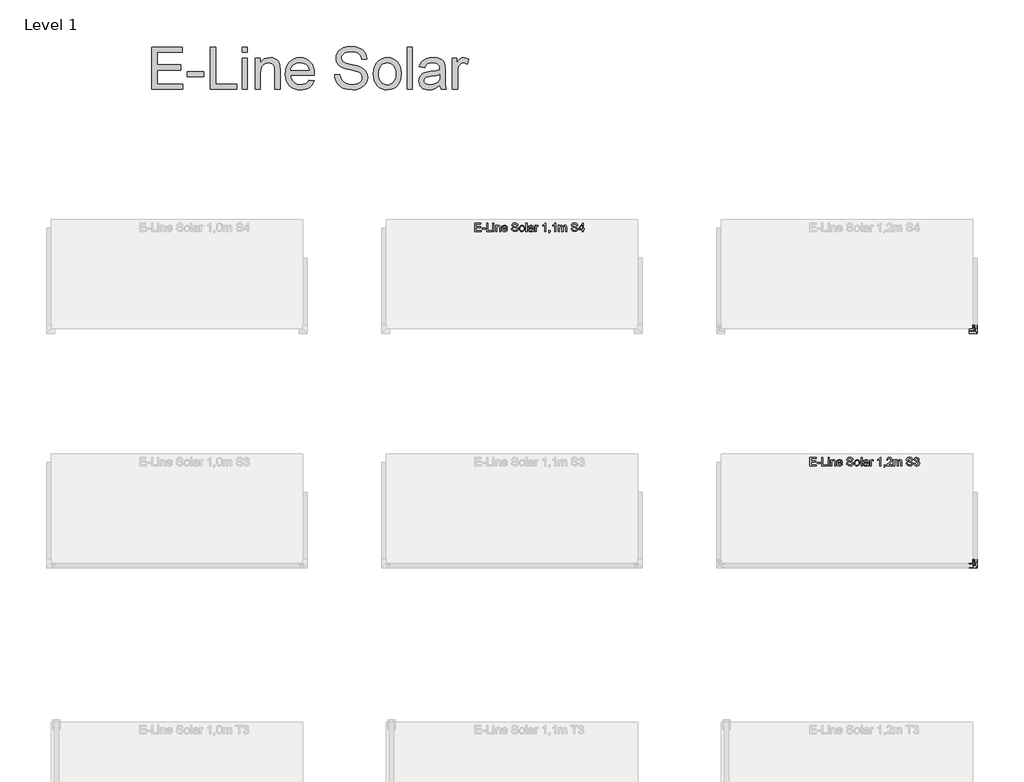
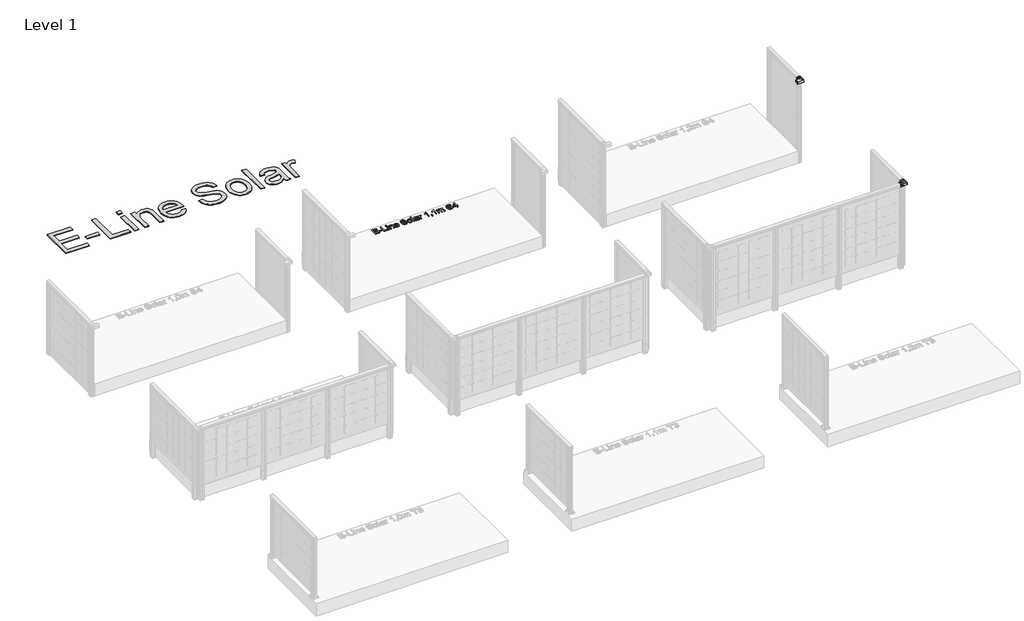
# One storey, part 64 of 66: 5 proxies.
"""IFC4 building model written with IfcOpenShell, lengths in millimetres."""

from ifc_helpers import new_model, si_unit, origin, origin_with_axes, place, context, project, spatial, polyline, outline, extrude, transform, mapped, element, save
from components import generic_models_b718ed85

model = new_model("IFC4")

# Units and contexts
model_context = context("Model", 3, world=origin())
ifc_project = project(units=[si_unit("LENGTHUNIT", "METRE", prefix="MILLI")], contexts=[model_context])

# Site, building, storey
site = spatial("IfcSite", under=ifc_project)
building = spatial("IfcBuilding", under=site)
storey = spatial("IfcBuildingStorey", under=building, Name="Level 1", Elevation=0.0)

# Proxies
placement = place(None, origin())
generic_models_shape = generic_models_b718ed85(model_context)
element("IfcBuildingElementProxy", 1, Name="Innore top rail 51x43 corner element : Innore top rail 51x43 element", ObjectType="Innore top rail 51x43 corner element : Innore top rail 51x43 element", at=placement, inside=storey, context=model_context, shape_type="MappedRepresentation", body=[
    mapped(generic_models_shape, transform((26326.5270144, 2988.9093698, 1200.0), x_axis=(0.0, -1.0, 0.0), y_axis=(1.0, 0.0, 0.0), z_axis=(0.0, 0.0, 1.0))),
])
element("IfcBuildingElementProxy", 2, Name="Innore top rail 51x43 corner element : Innore top rail 51x43 element", ObjectType="Innore top rail 51x43 corner element : Innore top rail 51x43 element", at=placement, inside=storey, context=model_context, shape_type="MappedRepresentation", body=[
    mapped(generic_models_shape, transform((26326.5270144, 188.9093698, 1200.0), x_axis=(0.0, -1.0, 0.0), y_axis=(1.0, 0.0, 0.0), z_axis=(0.0, 0.0, 1.0))),
])
element("IfcBuildingElementProxy", 3, Name="100mm Arial", ObjectType="100mm Arial", at=placement, inside=storey, context=model_context, shape_type="SweptSolid", body=[
    extrude(outline(polyline([(20354.036482, 4178.8815979), (20354.036482, 4279.3379081), (20426.2394549, 4279.3379081), (20426.2394549, 4266.7808693), (20366.5935207, 4266.7808693), (20366.5935207, 4236.9579022), (20423.1001952, 4236.9579022), (20423.1001952, 4224.4008635), (20366.5935207, 4224.4008635), (20366.5935207, 4191.4386367), (20427.8090847, 4191.4386367), (20427.8090847, 4178.8815979), (20354.036482, 4178.8815979)])), origin_with_axes(), (0.0, 0.0, 1.0), 10.0),
    extrude(outline(polyline([(20438.7964936, 4208.704565), (20438.7964936, 4221.2616038), (20478.0372398, 4221.2616038), (20478.0372398, 4208.704565), (20438.7964936, 4208.704565)])), origin_with_axes(), (0.0, 0.0, 1.0), 10.0),
    extrude(outline(polyline([(20493.7335383, 4178.8815979), (20493.7335383, 4279.3379081), (20506.290577, 4279.3379081), (20506.290577, 4191.4386367), (20556.5187321, 4191.4386367), (20556.5187321, 4178.8815979), (20493.7335383, 4178.8815979)])), origin_with_axes(), (0.0, 0.0, 1.0), 10.0),
    extrude(outline(polyline([(20569.0757709, 4266.7808693), (20569.0757709, 4279.3379081), (20581.6328096, 4279.3379081), (20581.6328096, 4266.7808693), (20569.0757709, 4266.7808693)])), origin_with_axes(), (0.0, 0.0, 1.0), 10.0),
    extrude(outline(polyline([(20569.0757709, 4178.8815979), (20569.0757709, 4252.6542007), (20581.6328096, 4252.6542007), (20581.6328096, 4178.8815979), (20569.0757709, 4178.8815979)])), origin_with_axes(), (0.0, 0.0, 1.0), 10.0),
    extrude(outline(polyline([(20600.4683678, 4178.8815979), (20600.4683678, 4252.6542007), (20613.0254066, 4252.6542007), (20613.0254066, 4242.3535048), (20622.6271266, 4251.2562491), (20635.7359884, 4254.2238305), (20647.5940514, 4251.8325976), (20655.6874553, 4245.5540782), (20659.4521144, 4236.3202401), (20660.1143019, 4224.1801343), (20660.1143019, 4178.8815979), (20647.5572632, 4178.8815979), (20647.5572632, 4222.4878771), (20646.1102607, 4233.5979133), (20640.9967009, 4239.4717625), (20632.3759995, 4241.6667918), (20618.752103, 4236.737173), (20614.4570807, 4229.594131), (20613.0254066, 4218.0242422), (20613.0254066, 4178.8815979), (20600.4683678, 4178.8815979)])), origin_with_axes(), (0.0, 0.0, 1.0), 10.0),
    extrude(outline(polyline([(20729.0308624, 4200.8564158), (20741.3426465, 4199.2867859), (20736.9066028, 4190.0100283), (20729.82794, 4183.0754527), (20720.2660738, 4178.7528392), (20708.3804197, 4177.3119681), (20693.6467458, 4179.7982372), (20682.309849, 4187.2570447), (20675.0809678, 4199.2040125), (20672.6713407, 4215.1547626), (20675.1054932, 4231.6420074), (20682.4079508, 4243.9721856), (20693.5915635, 4251.6609193), (20707.6691812, 4254.2238305), (20721.3084062, 4251.6670507), (20732.2069103, 4243.9967111), (20739.353018, 4231.6910583), (20741.7350539, 4215.228339), (20741.6614775, 4211.8438247), (20685.2283795, 4211.8438247), (20687.4019489, 4202.4444397), (20692.4511293, 4195.5343896), (20699.7382585, 4191.2853525), (20708.6256744, 4189.8690068), (20720.9374585, 4192.4932317), (20729.0308624, 4200.8564158)]), holes=[polyline([(20685.2283795, 4224.4008635), (20729.1780152, 4224.4008635), (20724.1502946, 4235.7806798), (20716.8294429, 4240.1952638), (20707.6201303, 4241.6667918), (20692.1568237, 4236.970165), (20687.2915843, 4231.4795262), (20685.2283795, 4224.4008635)])]), origin_with_axes(), (0.0, 0.0, 1.0), 10.0),
    extrude(outline(polyline([(20790.3935792, 4213.4134545), (20802.9506179, 4213.4134545), (20806.9973199, 4200.844153), (20816.8810828, 4192.8979019), (20831.9397192, 4189.8690068), (20845.0608437, 4192.1621379), (20853.5343923, 4198.4651828), (20856.3180327, 4206.8896805), (20854.2333681, 4214.725567), (20845.6985058, 4220.4277379), (20827.4147706, 4225.2224666), (20807.7330839, 4231.4151468), (20797.0522433, 4240.7593495), (20793.5328389, 4253.2428119), (20797.8861091, 4267.4553196), (20810.6025634, 4277.4862354), (20829.2173924, 4280.9075379), (20849.0830201, 4277.3268198), (20862.326772, 4266.8053948), (20867.3054416, 4251.0845708), (20854.7484029, 4251.0845708), (20852.443009, 4258.5771008), (20847.6360176, 4263.9849661), (20829.7079017, 4268.3504991), (20811.7307349, 4264.0340171), (20806.0898776, 4253.6106939), (20810.0875286, 4244.9041533), (20830.5908185, 4237.8898699), (20852.810891, 4231.5868251), (20864.9632596, 4221.4087566), (20868.8750715, 4207.2085115), (20864.3746484, 4192.1866634), (20851.4252022, 4181.22378), (20832.4302285, 4177.3119681), (20810.0016895, 4181.5303483), (20795.8137072, 4194.2345399), (20790.3935792, 4213.4134545)])), origin_with_axes(), (0.0, 0.0, 1.0), 10.0),
    extrude(outline(polyline([(20883.0017401, 4215.7678993), (20885.7179355, 4233.5549938), (20893.8665217, 4246.0568502), (20903.9342256, 4252.1820855), (20915.9884923, 4254.2238305), (20929.1801275, 4251.7375614), (20939.716881, 4244.2787539), (20946.6238655, 4232.4360194), (20948.9261936, 4216.7979689), (20944.8549662, 4194.455269), (20932.9969032, 4181.8123911), (20915.9884923, 4177.3119681), (20902.6374416, 4179.7890402), (20892.1129508, 4187.2202565), (20885.2795428, 4199.3113114), (20883.0017401, 4215.7678993)]), holes=[polyline([(20895.5587789, 4215.7924248), (20897.0119127, 4204.4279368), (20901.3713144, 4196.3314672), (20907.9318766, 4191.4846219), (20915.9884923, 4189.8690068), (20924.0083198, 4191.493819), (20930.5566193, 4196.3682554), (20934.916021, 4204.5720239), (20936.3691549, 4216.1848322), (20934.9068239, 4227.2182264), (20930.5198311, 4235.2043314), (20923.9623346, 4240.0511767), (20915.9884923, 4241.6667918), (20907.9318766, 4240.057308), (20901.3713144, 4235.2288568), (20897.0119127, 4227.1507814), (20895.5587789, 4215.7924248)])]), origin_with_axes(), (0.0, 0.0, 1.0), 10.0),
    extrude(outline(polyline([(20963.0528622, 4178.8815979), (20963.0528622, 4279.3379081), (20975.609901, 4279.3379081), (20975.609901, 4178.8815979), (20963.0528622, 4178.8815979)])), origin_with_axes(), (0.0, 0.0, 1.0), 10.0),
    extrude(outline(polyline([(21041.5343545, 4188.299377), (21029.3574605, 4179.7890402), (21015.9052422, 4177.3119681), (21005.4114083, 4178.8018902), (20997.670558, 4183.2716564), (20992.8972891, 4190.0590792), (20991.3061995, 4198.501971), (20993.7096952, 4208.4347849), (21000.0250028, 4215.645272), (21008.8173824, 4219.7655503), (21019.682164, 4221.6540112), (21041.4607781, 4225.9704933), (21041.5343545, 4228.7663965), (21038.0762638, 4238.0370227), (21024.1948498, 4241.6667918), (21011.4906583, 4239.2510333), (21005.4328681, 4230.6793828), (20992.8758293, 4232.2490127), (20998.3082201, 4244.5117459), (21009.2465781, 4251.6977075), (21025.8135306, 4254.2238305), (21041.0315825, 4251.9920131), (21049.6277584, 4246.387944), (21053.4782567, 4237.8653445), (21054.0913933, 4226.8779356), (21054.0913933, 4211.2552135), (21054.7290554, 4189.4398112), (21057.230653, 4178.8815979), (21044.6736142, 4178.8815979), (21041.5343545, 4188.299377)]), holes=[polyline([(21041.5343545, 4213.4134545), (21021.2763193, 4209.5629563), (21010.4728514, 4207.5273426), (21005.5800209, 4204.2164047), (21003.8632382, 4199.3848878), (21007.6033719, 4192.5913336), (21018.578518, 4189.8690068), (21031.2827096, 4192.8733765), (21039.4742154, 4200.1451772), (21041.4607781, 4209.8572619), (21041.5343545, 4213.4134545)])]), origin_with_axes(), (0.0, 0.0, 1.0), 10.0),
    extrude(outline(polyline([(21071.3573216, 4178.8815979), (21071.3573216, 4252.6542007), (21082.3447305, 4252.6542007), (21082.3447305, 4241.7403682), (21090.1438288, 4251.7958094), (21097.9919781, 4254.2238305), (21110.5980678, 4250.3488068), (21106.404213, 4239.0916178), (21097.5750451, 4241.6667918), (21090.4749226, 4239.1897197), (21085.9499741, 4232.3225891), (21083.9143604, 4217.6563602), (21083.9143604, 4178.8815979), (21071.3573216, 4178.8815979)])), origin_with_axes(), (0.0, 0.0, 1.0), 10.0),
    extrude(outline(polyline([(21201.6365988, 4178.8815979), (21189.0795601, 4178.8815979), (21189.0795601, 4257.1668865), (21177.1847089, 4248.6933379), (21163.9654825, 4242.3535048), (21163.9654825, 4254.2238305), (21182.371845, 4265.9715289), (21193.5431949, 4279.3379081), (21201.6365988, 4279.3379081), (21201.6365988, 4178.8815979)])), origin_with_axes(), (0.0, 0.0, 1.0), 10.0),
    extrude(outline(polyline([(21237.7380853, 4178.8815979), (21237.7380853, 4191.4386367), (21250.2951241, 4191.4386367), (21250.2951241, 4178.8815979), (21248.0387812, 4166.0425163), (21240.877345, 4158.4764099), (21237.7380853, 4163.1852995), (21242.348873, 4168.6054275), (21243.9920792, 4178.8815979), (21237.7380853, 4178.8815979)])), origin_with_axes(), (0.0, 0.0, 1.0), 10.0),
    extrude(outline(polyline([(21317.7892075, 4178.8815979), (21305.2321687, 4178.8815979), (21305.2321687, 4257.1668865), (21293.3373175, 4248.6933379), (21280.1180911, 4242.3535048), (21280.1180911, 4254.2238305), (21298.5244536, 4265.9715289), (21309.6958036, 4279.3379081), (21317.7892075, 4279.3379081), (21317.7892075, 4178.8815979)])), origin_with_axes(), (0.0, 0.0, 1.0), 10.0),
    extrude(outline(polyline([(21350.7514342, 4178.8815979), (21350.7514342, 4252.6542007), (21363.308473, 4252.6542007), (21363.308473, 4240.5140948), (21371.9414371, 4250.4591714), (21384.2286958, 4254.2238305), (21396.81026, 4250.385595), (21403.7264415, 4239.6311781), (21413.5243653, 4250.5756674), (21425.8974631, 4254.2238305), (21435.336702, 4252.7063173), (21442.3172628, 4248.1537776), (21446.6306792, 4240.4435841), (21448.0684847, 4229.4531095), (21448.0684847, 4178.8815979), (21435.5114459, 4178.8815979), (21435.5114459, 4224.0575069), (21434.3464863, 4234.5421438), (21430.128106, 4239.7047545), (21422.9544071, 4241.6667918), (21410.6058348, 4236.6390712), (21406.9178178, 4230.096903), (21405.6884788, 4220.5258398), (21405.6884788, 4178.8815979), (21393.1314401, 4178.8815979), (21393.1314401, 4225.4554585), (21390.2251723, 4237.6200898), (21380.6970286, 4241.6667918), (21371.4018769, 4238.9689905), (21365.2214594, 4231.0717903), (21363.308473, 4216.0867304), (21363.308473, 4178.8815979), (21350.7514342, 4178.8815979)])), origin_with_axes(), (0.0, 0.0, 1.0), 10.0),
    extrude(outline(polyline([(21503.0055293, 4213.4134545), (21515.5625681, 4213.4134545), (21519.60927, 4200.844153), (21529.4930329, 4192.8979019), (21544.5516693, 4189.8690068), (21557.6727938, 4192.1621379), (21566.1463424, 4198.4651828), (21568.9299828, 4206.8896805), (21566.8453182, 4214.725567), (21558.3104559, 4220.4277379), (21540.0267207, 4225.2224666), (21520.345034, 4231.4151468), (21509.6641934, 4240.7593495), (21506.144789, 4253.2428119), (21510.4980593, 4267.4553196), (21523.2145136, 4277.4862354), (21541.8293425, 4280.9075379), (21561.6949703, 4277.3268198), (21574.9387221, 4266.8053948), (21579.9173917, 4251.0845708), (21567.360353, 4251.0845708), (21565.0549591, 4258.5771008), (21560.2479677, 4263.9849661), (21542.3198518, 4268.3504991), (21524.342685, 4264.0340171), (21518.7018278, 4253.6106939), (21522.6994788, 4244.9041533), (21543.2027686, 4237.8898699), (21565.4228411, 4231.5868251), (21577.5752097, 4221.4087566), (21581.4870216, 4207.2085115), (21576.9865985, 4192.1866634), (21564.0371523, 4181.22378), (21545.0421786, 4177.3119681), (21522.6136396, 4181.5303483), (21508.4256574, 4194.2345399), (21503.0055293, 4213.4134545)])), origin_with_axes(), (0.0, 0.0, 1.0), 10.0),
    extrude(outline(polyline([(21636.4240662, 4178.8815979), (21636.4240662, 4202.4260456), (21590.9048007, 4202.4260456), (21590.9048007, 4214.9830844), (21639.5633259, 4277.7682782), (21648.981105, 4277.7682782), (21648.981105, 4214.9830844), (21661.5381437, 4214.9830844), (21661.5381437, 4202.4260456), (21648.981105, 4202.4260456), (21648.981105, 4178.8815979), (21636.4240662, 4178.8815979)]), holes=[polyline([(21636.4240662, 4214.9830844), (21636.4240662, 4253.7823721), (21606.3558445, 4214.9830844), (21636.4240662, 4214.9830844)])]), origin_with_axes(), (0.0, 0.0, 1.0), 10.0),
])
element("IfcBuildingElementProxy", 4, Name="100mm Arial", ObjectType="100mm Arial", at=placement, inside=storey, context=model_context, shape_type="SweptSolid", body=[
    extrude(outline(polyline([(24354.036482, 1378.8815979), (24354.036482, 1479.3379081), (24426.2394549, 1479.3379081), (24426.2394549, 1466.7808693), (24366.5935207, 1466.7808693), (24366.5935207, 1436.9579022), (24423.1001952, 1436.9579022), (24423.1001952, 1424.4008635), (24366.5935207, 1424.4008635), (24366.5935207, 1391.4386367), (24427.8090847, 1391.4386367), (24427.8090847, 1378.8815979), (24354.036482, 1378.8815979)])), origin_with_axes(), (0.0, 0.0, 1.0), 10.0),
    extrude(outline(polyline([(24438.7964936, 1408.704565), (24438.7964936, 1421.2616038), (24478.0372398, 1421.2616038), (24478.0372398, 1408.704565), (24438.7964936, 1408.704565)])), origin_with_axes(), (0.0, 0.0, 1.0), 10.0),
    extrude(outline(polyline([(24493.7335383, 1378.8815979), (24493.7335383, 1479.3379081), (24506.290577, 1479.3379081), (24506.290577, 1391.4386367), (24556.5187321, 1391.4386367), (24556.5187321, 1378.8815979), (24493.7335383, 1378.8815979)])), origin_with_axes(), (0.0, 0.0, 1.0), 10.0),
    extrude(outline(polyline([(24569.0757709, 1466.7808693), (24569.0757709, 1479.3379081), (24581.6328096, 1479.3379081), (24581.6328096, 1466.7808693), (24569.0757709, 1466.7808693)])), origin_with_axes(), (0.0, 0.0, 1.0), 10.0),
    extrude(outline(polyline([(24569.0757709, 1378.8815979), (24569.0757709, 1452.6542007), (24581.6328096, 1452.6542007), (24581.6328096, 1378.8815979), (24569.0757709, 1378.8815979)])), origin_with_axes(), (0.0, 0.0, 1.0), 10.0),
    extrude(outline(polyline([(24600.4683678, 1378.8815979), (24600.4683678, 1452.6542007), (24613.0254066, 1452.6542007), (24613.0254066, 1442.3535048), (24622.6271266, 1451.2562491), (24635.7359884, 1454.2238305), (24647.5940514, 1451.8325976), (24655.6874553, 1445.5540782), (24659.4521144, 1436.3202401), (24660.1143019, 1424.1801343), (24660.1143019, 1378.8815979), (24647.5572632, 1378.8815979), (24647.5572632, 1422.4878771), (24646.1102607, 1433.5979133), (24640.9967009, 1439.4717625), (24632.3759995, 1441.6667918), (24618.752103, 1436.737173), (24614.4570807, 1429.594131), (24613.0254066, 1418.0242422), (24613.0254066, 1378.8815979), (24600.4683678, 1378.8815979)])), origin_with_axes(), (0.0, 0.0, 1.0), 10.0),
    extrude(outline(polyline([(24729.0308624, 1400.8564158), (24741.3426465, 1399.2867859), (24736.9066028, 1390.0100283), (24729.82794, 1383.0754527), (24720.2660738, 1378.7528392), (24708.3804197, 1377.3119681), (24693.6467458, 1379.7982372), (24682.309849, 1387.2570447), (24675.0809678, 1399.2040125), (24672.6713407, 1415.1547626), (24675.1054932, 1431.6420074), (24682.4079508, 1443.9721856), (24693.5915635, 1451.6609193), (24707.6691812, 1454.2238305), (24721.3084062, 1451.6670507), (24732.2069103, 1443.9967111), (24739.353018, 1431.6910583), (24741.7350539, 1415.228339), (24741.6614775, 1411.8438247), (24685.2283795, 1411.8438247), (24687.4019489, 1402.4444397), (24692.4511293, 1395.5343896), (24699.7382585, 1391.2853525), (24708.6256744, 1389.8690068), (24720.9374585, 1392.4932317), (24729.0308624, 1400.8564158)]), holes=[polyline([(24685.2283795, 1424.4008635), (24729.1780152, 1424.4008635), (24724.1502946, 1435.7806798), (24716.8294429, 1440.1952638), (24707.6201303, 1441.6667918), (24692.1568237, 1436.970165), (24687.2915843, 1431.4795262), (24685.2283795, 1424.4008635)])]), origin_with_axes(), (0.0, 0.0, 1.0), 10.0),
    extrude(outline(polyline([(24790.3935792, 1413.4134545), (24802.9506179, 1413.4134545), (24806.9973199, 1400.844153), (24816.8810828, 1392.8979019), (24831.9397192, 1389.8690068), (24845.0608437, 1392.1621379), (24853.5343923, 1398.4651828), (24856.3180327, 1406.8896805), (24854.2333681, 1414.725567), (24845.6985058, 1420.4277379), (24827.4147706, 1425.2224666), (24807.7330839, 1431.4151468), (24797.0522433, 1440.7593495), (24793.5328389, 1453.2428119), (24797.8861091, 1467.4553196), (24810.6025634, 1477.4862354), (24829.2173924, 1480.9075379), (24849.0830201, 1477.3268198), (24862.326772, 1466.8053948), (24867.3054416, 1451.0845708), (24854.7484029, 1451.0845708), (24852.443009, 1458.5771008), (24847.6360176, 1463.9849661), (24829.7079017, 1468.3504991), (24811.7307349, 1464.0340171), (24806.0898776, 1453.6106939), (24810.0875286, 1444.9041533), (24830.5908185, 1437.8898699), (24852.810891, 1431.5868251), (24864.9632596, 1421.4087566), (24868.8750715, 1407.2085115), (24864.3746484, 1392.1866634), (24851.4252022, 1381.22378), (24832.4302285, 1377.3119681), (24810.0016895, 1381.5303483), (24795.8137072, 1394.2345399), (24790.3935792, 1413.4134545)])), origin_with_axes(), (0.0, 0.0, 1.0), 10.0),
    extrude(outline(polyline([(24883.0017401, 1415.7678993), (24885.7179355, 1433.5549938), (24893.8665217, 1446.0568502), (24903.9342256, 1452.1820855), (24915.9884923, 1454.2238305), (24929.1801275, 1451.7375614), (24939.716881, 1444.2787539), (24946.6238655, 1432.4360194), (24948.9261936, 1416.7979689), (24944.8549662, 1394.455269), (24932.9969032, 1381.8123911), (24915.9884923, 1377.3119681), (24902.6374416, 1379.7890402), (24892.1129508, 1387.2202565), (24885.2795428, 1399.3113114), (24883.0017401, 1415.7678993)]), holes=[polyline([(24895.5587789, 1415.7924248), (24897.0119127, 1404.4279368), (24901.3713144, 1396.3314672), (24907.9318766, 1391.4846219), (24915.9884923, 1389.8690068), (24924.0083198, 1391.493819), (24930.5566193, 1396.3682554), (24934.916021, 1404.5720239), (24936.3691549, 1416.1848322), (24934.9068239, 1427.2182264), (24930.5198311, 1435.2043314), (24923.9623346, 1440.0511767), (24915.9884923, 1441.6667918), (24907.9318766, 1440.057308), (24901.3713144, 1435.2288568), (24897.0119127, 1427.1507814), (24895.5587789, 1415.7924248)])]), origin_with_axes(), (0.0, 0.0, 1.0), 10.0),
    extrude(outline(polyline([(24963.0528622, 1378.8815979), (24963.0528622, 1479.3379081), (24975.609901, 1479.3379081), (24975.609901, 1378.8815979), (24963.0528622, 1378.8815979)])), origin_with_axes(), (0.0, 0.0, 1.0), 10.0),
    extrude(outline(polyline([(25041.5343545, 1388.299377), (25029.3574605, 1379.7890402), (25015.9052422, 1377.3119681), (25005.4114083, 1378.8018902), (24997.670558, 1383.2716564), (24992.8972891, 1390.0590792), (24991.3061995, 1398.501971), (24993.7096952, 1408.4347849), (25000.0250028, 1415.645272), (25008.8173824, 1419.7655503), (25019.682164, 1421.6540112), (25041.4607781, 1425.9704933), (25041.5343545, 1428.7663965), (25038.0762638, 1438.0370227), (25024.1948498, 1441.6667918), (25011.4906583, 1439.2510333), (25005.4328681, 1430.6793828), (24992.8758293, 1432.2490127), (24998.3082201, 1444.5117459), (25009.2465781, 1451.6977075), (25025.8135306, 1454.2238305), (25041.0315825, 1451.9920131), (25049.6277584, 1446.387944), (25053.4782567, 1437.8653445), (25054.0913933, 1426.8779356), (25054.0913933, 1411.2552135), (25054.7290554, 1389.4398112), (25057.230653, 1378.8815979), (25044.6736142, 1378.8815979), (25041.5343545, 1388.299377)]), holes=[polyline([(25041.5343545, 1413.4134545), (25021.2763193, 1409.5629563), (25010.4728514, 1407.5273426), (25005.5800209, 1404.2164047), (25003.8632382, 1399.3848878), (25007.6033719, 1392.5913336), (25018.578518, 1389.8690068), (25031.2827096, 1392.8733765), (25039.4742154, 1400.1451772), (25041.4607781, 1409.8572619), (25041.5343545, 1413.4134545)])]), origin_with_axes(), (0.0, 0.0, 1.0), 10.0),
    extrude(outline(polyline([(25071.3573216, 1378.8815979), (25071.3573216, 1452.6542007), (25082.3447305, 1452.6542007), (25082.3447305, 1441.7403682), (25090.1438288, 1451.7958094), (25097.9919781, 1454.2238305), (25110.5980678, 1450.3488068), (25106.404213, 1439.0916178), (25097.5750451, 1441.6667918), (25090.4749226, 1439.1897197), (25085.9499741, 1432.3225891), (25083.9143604, 1417.6563602), (25083.9143604, 1378.8815979), (25071.3573216, 1378.8815979)])), origin_with_axes(), (0.0, 0.0, 1.0), 10.0),
    extrude(outline(polyline([(25201.6365988, 1378.8815979), (25189.0795601, 1378.8815979), (25189.0795601, 1457.1668865), (25177.1847089, 1448.6933379), (25163.9654825, 1442.3535048), (25163.9654825, 1454.2238305), (25182.371845, 1465.9715289), (25193.5431949, 1479.3379081), (25201.6365988, 1479.3379081), (25201.6365988, 1378.8815979)])), origin_with_axes(), (0.0, 0.0, 1.0), 10.0),
    extrude(outline(polyline([(25237.7380853, 1378.8815979), (25237.7380853, 1391.4386367), (25250.2951241, 1391.4386367), (25250.2951241, 1378.8815979), (25248.0387812, 1366.0425163), (25240.877345, 1358.4764099), (25237.7380853, 1363.1852995), (25242.348873, 1368.6054275), (25243.9920792, 1378.8815979), (25237.7380853, 1378.8815979)])), origin_with_axes(), (0.0, 0.0, 1.0), 10.0),
    extrude(outline(polyline([(25335.0551358, 1391.4386367), (25335.0551358, 1378.8815979), (25269.1306822, 1378.8815979), (25270.4795829, 1387.5390875), (25278.1070029, 1400.8686785), (25293.8278268, 1415.4245428), (25315.5083391, 1436.3447656), (25320.9284671, 1450.569536), (25315.8149074, 1462.0842425), (25302.460791, 1466.7808693), (25288.5425888, 1462.1946071), (25283.2573508, 1449.514941), (25270.7003121, 1451.0845708), (25273.7445356, 1463.230808), (25280.3265576, 1472.1028955), (25290.1030216, 1477.5291549), (25302.7305711, 1479.3379081), (25315.4500911, 1477.3268198), (25325.208161, 1471.2935551), (25331.4161697, 1462.2804462), (25333.4855059, 1451.3298255), (25331.2536885, 1439.4227116), (25323.8347349, 1427.1109275), (25305.8453053, 1409.9063128), (25291.3998057, 1397.8275207), (25285.7344229, 1391.4386367), (25335.0551358, 1391.4386367)])), origin_with_axes(), (0.0, 0.0, 1.0), 10.0),
    extrude(outline(polyline([(25350.7514342, 1378.8815979), (25350.7514342, 1452.6542007), (25363.308473, 1452.6542007), (25363.308473, 1440.5140948), (25371.9414371, 1450.4591714), (25384.2286958, 1454.2238305), (25396.81026, 1450.385595), (25403.7264415, 1439.6311781), (25413.5243653, 1450.5756674), (25425.8974631, 1454.2238305), (25435.336702, 1452.7063173), (25442.3172628, 1448.1537776), (25446.6306792, 1440.4435841), (25448.0684847, 1429.4531095), (25448.0684847, 1378.8815979), (25435.5114459, 1378.8815979), (25435.5114459, 1424.0575069), (25434.3464863, 1434.5421438), (25430.128106, 1439.7047545), (25422.9544071, 1441.6667918), (25410.6058348, 1436.6390712), (25406.9178178, 1430.096903), (25405.6884788, 1420.5258398), (25405.6884788, 1378.8815979), (25393.1314401, 1378.8815979), (25393.1314401, 1425.4554585), (25390.2251723, 1437.6200898), (25380.6970286, 1441.6667918), (25371.4018769, 1438.9689905), (25365.2214594, 1431.0717903), (25363.308473, 1416.0867304), (25363.308473, 1378.8815979), (25350.7514342, 1378.8815979)])), origin_with_axes(), (0.0, 0.0, 1.0), 10.0),
    extrude(outline(polyline([(25503.0055293, 1413.4134545), (25515.5625681, 1413.4134545), (25519.60927, 1400.844153), (25529.4930329, 1392.8979019), (25544.5516693, 1389.8690068), (25557.6727938, 1392.1621379), (25566.1463424, 1398.4651828), (25568.9299828, 1406.8896805), (25566.8453182, 1414.725567), (25558.3104559, 1420.4277379), (25540.0267207, 1425.2224666), (25520.345034, 1431.4151468), (25509.6641934, 1440.7593495), (25506.144789, 1453.2428119), (25510.4980593, 1467.4553196), (25523.2145136, 1477.4862354), (25541.8293425, 1480.9075379), (25561.6949703, 1477.3268198), (25574.9387221, 1466.8053948), (25579.9173917, 1451.0845708), (25567.360353, 1451.0845708), (25565.0549591, 1458.5771008), (25560.2479677, 1463.9849661), (25542.3198518, 1468.3504991), (25524.342685, 1464.0340171), (25518.7018278, 1453.6106939), (25522.6994788, 1444.9041533), (25543.2027686, 1437.8898699), (25565.4228411, 1431.5868251), (25577.5752097, 1421.4087566), (25581.4870216, 1407.2085115), (25576.9865985, 1392.1866634), (25564.0371523, 1381.22378), (25545.0421786, 1377.3119681), (25522.6136396, 1381.5303483), (25508.4256574, 1394.2345399), (25503.0055293, 1413.4134545)])), origin_with_axes(), (0.0, 0.0, 1.0), 10.0),
    extrude(outline(polyline([(25595.6136902, 1405.5653053), (25608.170729, 1407.1349351), (25615.0991732, 1393.9157088), (25628.0608822, 1389.8690068), (25636.6693209, 1391.2608271), (25643.3157223, 1395.4362877), (25648.981105, 1409.2195998), (25643.3647732, 1422.2058342), (25629.0909518, 1427.3439194), (25620.2863094, 1425.9704933), (25621.6842609, 1438.5275321), (25623.6953492, 1438.3803793), (25637.9446451, 1441.9856228), (25642.6903229, 1446.5596223), (25644.2722154, 1453.0711336), (25639.6859532, 1462.8935829), (25627.8646785, 1466.7808693), (25615.8962509, 1462.8567947), (25609.7403588, 1451.0845708), (25597.1833201, 1452.6542007), (25600.8805341, 1463.9297838), (25607.4594905, 1472.3481502), (25616.4603366, 1477.5904686), (25627.4232201, 1479.3379081), (25642.5676955, 1475.89208), (25653.162697, 1466.474301), (25656.8292542, 1453.8068976), (25653.346638, 1442.2308775), (25643.0459421, 1433.9167444), (25656.7311523, 1425.3328312), (25661.5381437, 1408.9988706), (25659.134648, 1396.7606629), (25651.9241609, 1386.5335434), (25641.0409852, 1379.6173619), (25627.6194238, 1377.3119681), (25615.4793179, 1379.2801367), (25605.595555, 1385.1846428), (25598.7222931, 1394.2161458), (25595.6136902, 1405.5653053)])), origin_with_axes(), (0.0, 0.0, 1.0), 10.0),
])
element("IfcBuildingElementProxy", 5, Name="500mm Arial 2", ObjectType="500mm Arial 2", at=placement, inside=storey, context=model_context, shape_type="SweptSolid", body=[
    extrude(outline(polyline([(16497.9861176, 5878.8815979), (16497.9861176, 6381.1631487), (16859.0009822, 6381.1631487), (16859.0009822, 6318.3779548), (16560.7713115, 6318.3779548), (16560.7713115, 6169.2631194), (16843.3046838, 6169.2631194), (16843.3046838, 6106.4779256), (16560.7713115, 6106.4779256), (16560.7713115, 5941.6667918), (16866.8491315, 5941.6667918), (16866.8491315, 5878.8815979), (16497.9861176, 5878.8815979)])), origin_with_axes(), (0.0, 0.0, 1.0), 10.0),
    extrude(outline(polyline([(16921.7861761, 6027.9964333), (16921.7861761, 6090.7816271), (17117.9899068, 6090.7816271), (17117.9899068, 6027.9964333), (16921.7861761, 6027.9964333)])), origin_with_axes(), (0.0, 0.0, 1.0), 10.0),
    extrude(outline(polyline([(17196.4713992, 5878.8815979), (17196.4713992, 6381.1631487), (17259.256593, 6381.1631487), (17259.256593, 5941.6667918), (17510.3973684, 5941.6667918), (17510.3973684, 5878.8815979), (17196.4713992, 5878.8815979)])), origin_with_axes(), (0.0, 0.0, 1.0), 10.0),
    extrude(outline(polyline([(17573.1825622, 6318.3779548), (17573.1825622, 6381.1631487), (17635.9677561, 6381.1631487), (17635.9677561, 6318.3779548), (17573.1825622, 6318.3779548)])), origin_with_axes(), (0.0, 0.0, 1.0), 10.0),
    extrude(outline(polyline([(17573.1825622, 5878.8815979), (17573.1825622, 6247.7446117), (17635.9677561, 6247.7446117), (17635.9677561, 5878.8815979), (17573.1825622, 5878.8815979)])), origin_with_axes(), (0.0, 0.0, 1.0), 10.0),
    extrude(outline(polyline([(17730.1455468, 5878.8815979), (17730.1455468, 6247.7446117), (17792.9307407, 6247.7446117), (17792.9307407, 6196.2411324), (17814.7430773, 6222.2074699), (17840.939341, 6240.7548538), (17871.5195319, 6251.8832842), (17906.4836498, 6255.592761), (17937.4317227, 6252.6037198), (17965.7739647, 6243.6365961), (17989.4103829, 6229.8103645), (18006.2409842, 6212.2439992), (18017.6606545, 6190.9834856), (18025.0642796, 6166.0748088), (18028.3752176, 6105.3742796), (18028.3752176, 5878.8815979), (17965.5900237, 5878.8815979), (17965.5900237, 6096.9129937), (17963.7812706, 6129.3785798), (17958.3550112, 6152.463175), (17948.3455552, 6169.0025364), (17932.7872125, 6181.8324209), (17912.8449427, 6190.0637806), (17889.6837054, 6192.8075671), (17870.6189874, 6191.2670613), (17852.9108343, 6186.6455437), (17836.559246, 6178.9430144), (17821.5642226, 6168.1594735), (17809.0370743, 6153.0686474), (17800.0891112, 6132.4442631), (17794.7203333, 6106.2863204), (17792.9307407, 6074.5948194), (17792.9307407, 5878.8815979), (17730.1455468, 5878.8815979)])), origin_with_axes(), (0.0, 0.0, 1.0), 10.0),
    extrude(outline(polyline([(18372.9580197, 5988.7556871), (18434.5169403, 5980.9075379), (18425.0784678, 5956.25178), (18412.3367216, 5934.5237497), (18396.2917017, 5915.7234469), (18376.943408, 5899.8508716), (18354.49111, 5887.2432491), (18329.1340771, 5878.2378044), (18300.8723092, 5872.8345376), (18269.7058064, 5871.0334487), (18230.748636, 5874.1412851), (18196.0374369, 5883.4647944), (18165.5722092, 5899.0039766), (18139.3529528, 5920.7588317), (18118.2687159, 5948.1238872), (18103.2085468, 5980.4936707), (18094.1724453, 6017.8681821), (18091.1604114, 6060.2474215), (18094.2031021, 6104.0637), (18103.3311741, 6142.6836453), (18118.5446274, 6176.1072574), (18139.8434621, 6204.3345363), (18165.9937406, 6226.7600096), (18195.7615254, 6242.7782048), (18229.1468164, 6252.3891219), (18266.1496138, 6255.592761), (18301.9606268, 6252.3967861), (18334.3457387, 6242.8088616), (18363.3049495, 6226.8289875), (18388.8382592, 6204.4571637), (18409.6810735, 6176.2911984), (18424.568798, 6142.9289), (18433.5014327, 6104.3702683), (18436.4789776, 6060.6153035), (18436.1110956, 6043.6927318), (18153.9456053, 6043.6927318), (18157.5822721, 6018.638435), (18164.8134525, 5996.6958069), (18175.6391467, 5977.8648472), (18190.0593545, 5962.1455562), (18207.2769983, 5949.7525314), (18226.4950004, 5940.9003709), (18247.7133609, 5935.5890746), (18270.9320797, 5933.8186425), (18304.3480276, 5937.0989237), (18332.4910003, 5946.939767), (18355.3609976, 5963.9543093), (18372.9580197, 5988.7556871)]), holes=[polyline([(18153.9456053, 6106.4779256), (18373.6937837, 6106.4779256), (18365.201841, 6139.6486188), (18348.5551807, 6163.3770075), (18331.4333395, 6176.2528774), (18311.9509222, 6185.4499272), (18290.1079287, 6190.9681572), (18265.9043591, 6192.8075671), (18223.5826013, 6186.9367836), (18205.169341, 6179.5983042), (18188.5878265, 6169.3244331), (18174.6734564, 6156.5903511), (18164.2616295, 6141.8712392), (18157.3523458, 6125.1670974), (18153.9456053, 6106.4779256)])]), origin_with_axes(), (0.0, 0.0, 1.0), 10.0),
    extrude(outline(polyline([(18679.7716037, 6051.540881), (18742.5567976, 6051.540881), (18749.7611533, 6016.6993904), (18762.7903073, 5988.6943735), (18783.1157875, 5966.4681696), (18812.209122, 5948.963118), (18847.7710482, 5937.6047614), (18887.5023036, 5933.8186425), (18922.48175, 5936.6850564), (18953.1079261, 5945.284298), (18977.9246324, 5958.8959319), (18995.4756692, 5976.7995223), (19005.9143208, 5997.3549288), (19009.3938714, 6018.9220107), (19006.7880406, 6039.9372697), (18998.9705482, 6058.1014432), (18983.0903087, 6073.5984723), (18956.2962367, 6086.6122979), (18864.8775609, 6110.5859412), (18804.8668105, 6126.4508523), (18766.4691272, 6141.5493425), (18735.2144861, 6162.6719004), (18713.0649243, 6188.2703559), (18699.8671577, 6217.792886), (18695.4679022, 6250.6876677), (18700.90949, 6287.4605388), (18717.2342535, 6321.7502064), (18729.3705273, 6337.2778923), (18744.0129971, 6350.8128841), (18780.816525, 6371.9047851), (18824.9930213, 6384.7346697), (18873.8906698, 6389.0112979), (18926.8656771, 6384.5354003), (18973.2188085, 6371.1077075), (19011.294595, 6349.0041309), (19026.6076831, 6334.8023531), (19039.4375677, 6318.5005822), (19057.2491876, 6281.4977848), (19064.330916, 6239.8964625), (19001.5457222, 6239.8964625), (18997.345736, 6259.9307028), (18990.018753, 6277.3591124), (18979.5647729, 6292.1816911), (18965.983796, 6304.398439), (18949.0229031, 6313.9480425), (18928.4291756, 6320.7691878), (18876.3432165, 6326.2261041), (18823.030984, 6320.8305015), (18802.6518543, 6314.0859982), (18786.4573823, 6304.6436937), (18774.1180071, 6293.2930013), (18765.3041676, 6280.8233345), (18760.0158639, 6267.2346933), (18758.253096, 6252.5270777), (18763.2501598, 6228.4001502), (18778.2413511, 6208.9943749), (18792.0062691, 6200.3644765), (18813.68065, 6191.6426075), (18880.7578004, 6173.9229581), (18949.9809292, 6157.0923568), (18991.8581629, 6142.4077338), (19027.6500154, 6119.6297069), (19052.6200058, 6091.5173911), (19067.2893004, 6058.3773547), (19072.1790652, 6020.5161661), (19066.5535364, 5981.8119145), (19049.6769499, 5945.4069254), (19022.2390844, 5914.0756421), (18984.9297187, 5890.5925081), (18940.0634437, 5875.9232135), (18889.9548503, 5871.0334487), (18828.441915, 5876.306424), (18801.7666383, 5882.897643), (18777.8121554, 5892.1253497), (18756.4328466, 5904.0048725), (18737.4830917, 5918.5515397), (18720.9628909, 5935.7653514), (18706.872244, 5955.6463076), (18695.5215516, 5977.5506147), (18687.2212141, 6000.8344793), (18681.9712315, 6025.4979014), (18679.7716037, 6051.540881)])), origin_with_axes(), (0.0, 0.0, 1.0), 10.0),
    extrude(outline(polyline([(19142.8124083, 6063.3131048), (19146.2076525, 6111.0841147), (19156.3933853, 6152.2485772), (19173.3696065, 6186.8064921), (19197.1363163, 6214.7578595), (19221.0639744, 6232.6231289), (19247.4748359, 6245.3840356), (19276.368901, 6253.0405796), (19307.7461695, 6255.592761), (19342.3845586, 6252.4849245), (19373.7043455, 6243.1614152), (19401.7055303, 6227.622233), (19426.3881129, 6205.867378), (19446.5334843, 6178.632614), (19460.9230352, 6146.6537052), (19469.5567658, 6109.9306514), (19472.434676, 6068.4634528), (19467.3456417, 6005.0344654), (19460.9843489, 5978.9991501), (19452.0785389, 5956.7499536), (19440.7393428, 5937.5319514), (19427.0778917, 5920.5902191), (19411.0941854, 5905.9247567), (19392.788224, 5893.5355641), (19352.0606215, 5876.6589775), (19307.7461695, 5871.0334487), (19272.6019426, 5874.1297888), (19240.9909158, 5883.4188092), (19212.9130889, 5898.9005098), (19188.368462, 5920.5748907), (19168.4376885, 5948.0740698), (19154.2014217, 5981.0301652), (19145.6596617, 6019.4431769), (19142.8124083, 6063.3131048)]), holes=[polyline([(19205.5976021, 6063.4357322), (19207.4140195, 6032.9820008), (19212.8632716, 6006.6132923), (19221.9453583, 5984.3296069), (19234.6602798, 5966.1309444), (19250.126652, 5951.9943124), (19267.463091, 5941.896718), (19286.6695968, 5935.8381614), (19307.7461695, 5933.8186425), (19328.7154432, 5935.8496577), (19347.8453069, 5941.9427033), (19365.1357607, 5952.0977792), (19380.5868045, 5966.3148854), (19393.301726, 5984.6936568), (19402.3838127, 6007.3337279), (19407.8330648, 6034.2350988), (19409.6494821, 6065.3977695), (19407.8215685, 6094.8858106), (19402.3378275, 6120.5647403), (19393.1982592, 6142.4345585), (19380.4028635, 6160.4952652), (19364.8943382, 6174.6318973), (19347.6153807, 6184.7294917), (19328.5659911, 6190.7880483), (19307.7461695, 6192.8075671), (19286.6695968, 6190.7957125), (19267.463091, 6184.7601485), (19250.126652, 6174.7008752), (19234.6602798, 6160.6178926), (19221.9453583, 6142.4728796), (19212.8632716, 6120.2275152), (19207.4140195, 6093.8817994), (19205.5976021, 6063.4357322)])]), origin_with_axes(), (0.0, 0.0, 1.0), 10.0),
    extrude(outline(polyline([(19543.0680191, 5878.8815979), (19543.0680191, 6381.1631487), (19605.8532129, 6381.1631487), (19605.8532129, 5878.8815979), (19543.0680191, 5878.8815979)])), origin_with_axes(), (0.0, 0.0, 1.0), 10.0),
    extrude(outline(polyline([(19935.4754806, 5925.9704933), (19905.4777696, 5900.2494105), (19874.5910104, 5883.4188092), (19842.1100959, 5874.1297888), (19807.3299189, 5871.0334487), (19779.3747194, 5872.8958513), (19754.8607494, 5878.4830591), (19733.7880088, 5887.7950721), (19716.1564978, 5900.8318903), (19702.2344635, 5916.7657792), (19692.2901533, 5934.7690044), (19686.3235672, 5954.8415657), (19684.3347052, 5976.9834633), (19687.3390748, 6003.0111145), (19696.3521837, 6026.6475326), (19710.2550574, 6046.8810424), (19727.9287216, 6062.6999682), (19748.6987259, 6074.656133), (19771.8906201, 6083.3013599), (19826.214528, 6092.7436644), (19890.4099362, 6102.6764783), (19935.1075986, 6114.3260748), (19935.4754806, 6128.3055906), (19931.1528671, 6156.3259359), (19918.1850268, 6174.658722), (19905.1098876, 6182.5988418), (19889.1836629, 6188.2703559), (19848.777957, 6192.8075671), (19811.3766209, 6189.7878691), (19785.2569992, 6180.728775), (19767.4453793, 6163.9748158), (19754.9680483, 6137.8705225), (19692.1828544, 6145.7186718), (19703.0813585, 6180.0543246), (19719.3448084, 6207.0323376), (19742.4907173, 6227.6643862), (19774.0365984, 6242.9621458), (19812.6182226, 6252.4351072), (19856.8713609, 6255.592761), (19899.3157461, 6252.8029892), (19932.9616203, 6244.4336738), (19958.3301495, 6231.8490439), (19975.9425, 6216.4133285), (19987.6227534, 6197.32945), (19995.1949911, 6173.8003307), (19998.2606744, 6118.8632861), (19998.2606744, 6040.7496758), (20001.448985, 5931.6726642), (20006.1701373, 5904.7099797), (20013.9569729, 5878.8815979), (19951.171779, 5878.8815979), (19941.1163378, 5900.709263), (19935.4754806, 5925.9704933)]), holes=[polyline([(19935.4754806, 6051.540881), (19893.2916785, 6041.086901), (19834.1853046, 6032.2883899), (19780.1679649, 6022.1103214), (19766.111807, 6015.1512203), (19755.7038123, 6005.5556316), (19749.2658774, 5994.0593192), (19747.119899, 5981.3980472), (19751.7950661, 5962.728036), (19765.8205671, 5947.4302764), (19788.8898339, 5937.221551), (19820.6962981, 5933.8186425), (19854.4188143, 5937.5741046), (19884.2172559, 5948.8404907), (19908.3748403, 5965.4411657), (19925.1747847, 5985.1994945), (19932.6243951, 6005.5556316), (19935.1075986, 6033.7599179), (19935.4754806, 6051.540881)])]), origin_with_axes(), (0.0, 0.0, 1.0), 10.0),
    extrude(outline(polyline([(20084.590316, 5878.8815979), (20084.590316, 6247.7446117), (20139.5273606, 6247.7446117), (20139.5273606, 6193.1754491), (20159.822184, 6224.8133007), (20178.5228521, 6243.4526551), (20197.2848338, 6252.5577345), (20217.7635982, 6255.592761), (20249.0335678, 6250.7489814), (20280.7940467, 6236.2176426), (20259.824773, 6179.9316973), (20237.7518533, 6189.5885997), (20215.6789336, 6192.8075671), (20196.9322802, 6189.711227), (20180.178321, 6180.4222066), (20166.6433293, 6165.6456132), (20157.5535783, 6146.0865537), (20149.9200269, 6111.0151369), (20147.3755098, 6072.7554094), (20147.3755098, 5878.8815979), (20084.590316, 5878.8815979)])), origin_with_axes(), (0.0, 0.0, 1.0), 10.0),
])

save(model, "model.ifc")
